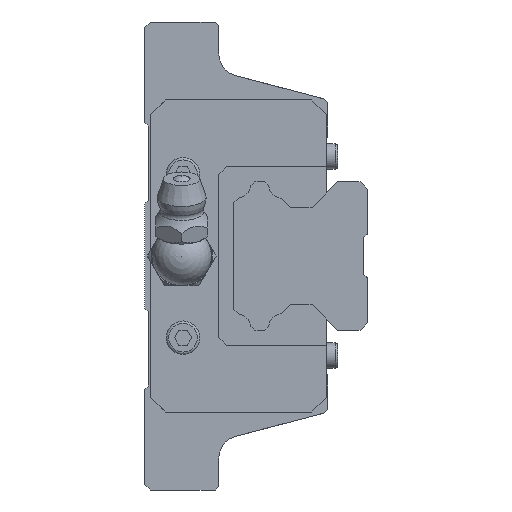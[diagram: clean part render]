
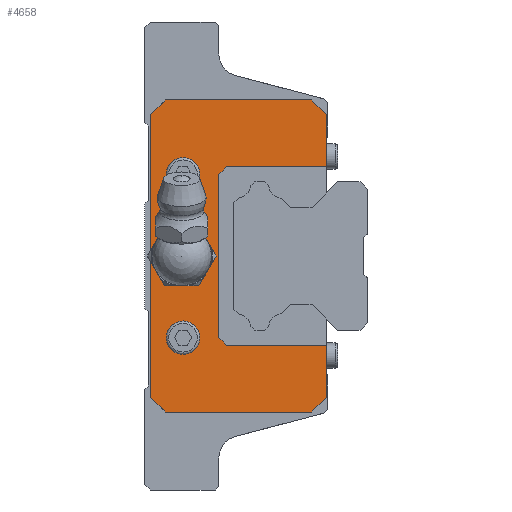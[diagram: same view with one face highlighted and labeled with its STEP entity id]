
A CAD part, left-side view. The second image highlights one B-rep face of the part: STEP entity #4658.
In plain terms, the highlighted planar face has unit normal (-1, 0, 0).
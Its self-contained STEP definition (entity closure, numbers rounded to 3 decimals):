
#206=CIRCLE('',#5045,3.);
#207=CIRCLE('',#5046,2.25);
#208=CIRCLE('',#5047,2.25);
#345=LINE('',#6781,#837);
#352=LINE('',#6795,#844);
#380=LINE('',#6853,#872);
#395=LINE('',#6884,#887);
#423=LINE('',#6937,#915);
#449=LINE('',#6997,#941);
#455=LINE('',#7014,#947);
#610=LINE('',#7441,#1102);
#611=LINE('',#7443,#1103);
#619=LINE('',#7471,#1111);
#620=LINE('',#7474,#1112);
#621=LINE('',#7475,#1113);
#622=LINE('',#7477,#1114);
#623=LINE('',#7479,#1115);
#837=VECTOR('',#5490,1000.);
#844=VECTOR('',#5501,1000.);
#872=VECTOR('',#5541,1000.);
#887=VECTOR('',#5560,1000.);
#915=VECTOR('',#5604,1000.);
#941=VECTOR('',#5646,1000.);
#947=VECTOR('',#5658,1000.);
#1102=VECTOR('',#6005,1000.);
#1103=VECTOR('',#6008,1000.);
#1111=VECTOR('',#6036,1000.);
#1112=VECTOR('',#6037,1000.);
#1113=VECTOR('',#6038,1000.);
#1114=VECTOR('',#6039,1000.);
#1115=VECTOR('',#6040,1000.);
#2039=ORIENTED_EDGE('',*,*,#3001,.T.);
#2040=ORIENTED_EDGE('',*,*,#3002,.F.);
#2041=ORIENTED_EDGE('',*,*,#3003,.F.);
#2042=ORIENTED_EDGE('',*,*,#3004,.T.);
#2043=ORIENTED_EDGE('',*,*,#3005,.T.);
#2044=ORIENTED_EDGE('',*,*,#2778,.F.);
#2045=ORIENTED_EDGE('',*,*,#2989,.T.);
#2046=ORIENTED_EDGE('',*,*,#2677,.F.);
#2047=ORIENTED_EDGE('',*,*,#2670,.F.);
#2048=ORIENTED_EDGE('',*,*,#2748,.F.);
#2049=ORIENTED_EDGE('',*,*,#2705,.F.);
#2050=ORIENTED_EDGE('',*,*,#2720,.F.);
#2051=ORIENTED_EDGE('',*,*,#2990,.T.);
#2052=ORIENTED_EDGE('',*,*,#2786,.F.);
#2053=ORIENTED_EDGE('',*,*,#3006,.T.);
#2054=ORIENTED_EDGE('',*,*,#3007,.T.);
#2055=ORIENTED_EDGE('',*,*,#3008,.T.);
#2670=EDGE_CURVE('',#3283,#3284,#345,.T.);
#2677=EDGE_CURVE('',#3284,#3289,#352,.T.);
#2705=EDGE_CURVE('',#3312,#3313,#380,.T.);
#2720=EDGE_CURVE('',#3326,#3312,#395,.T.);
#2748=EDGE_CURVE('',#3313,#3283,#423,.T.);
#2778=EDGE_CURVE('',#3369,#3370,#449,.T.);
#2786=EDGE_CURVE('',#3377,#3378,#455,.T.);
#2989=EDGE_CURVE('',#3369,#3289,#610,.T.);
#2990=EDGE_CURVE('',#3326,#3378,#611,.T.);
#3001=EDGE_CURVE('',#3529,#3529,#206,.T.);
#3002=EDGE_CURVE('',#3530,#3530,#207,.F.);
#3003=EDGE_CURVE('',#3531,#3531,#208,.F.);
#3004=EDGE_CURVE('',#3532,#3533,#619,.T.);
#3005=EDGE_CURVE('',#3533,#3370,#620,.T.);
#3006=EDGE_CURVE('',#3377,#3534,#621,.T.);
#3007=EDGE_CURVE('',#3534,#3535,#622,.T.);
#3008=EDGE_CURVE('',#3535,#3532,#623,.T.);
#3283=VERTEX_POINT('',#6780);
#3284=VERTEX_POINT('',#6782);
#3289=VERTEX_POINT('',#6796);
#3312=VERTEX_POINT('',#6852);
#3313=VERTEX_POINT('',#6854);
#3326=VERTEX_POINT('',#6883);
#3369=VERTEX_POINT('',#6996);
#3370=VERTEX_POINT('',#6998);
#3377=VERTEX_POINT('',#7013);
#3378=VERTEX_POINT('',#7015);
#3529=VERTEX_POINT('',#7466);
#3530=VERTEX_POINT('',#7468);
#3531=VERTEX_POINT('',#7470);
#3532=VERTEX_POINT('',#7472);
#3533=VERTEX_POINT('',#7473);
#3534=VERTEX_POINT('',#7476);
#3535=VERTEX_POINT('',#7478);
#3827=EDGE_LOOP('',(#2039));
#3828=EDGE_LOOP('',(#2040));
#3829=EDGE_LOOP('',(#2041));
#3830=EDGE_LOOP('',(#2042,#2043,#2044,#2045,#2046,#2047,#2048,#2049,#2050,
#2051,#2052,#2053,#2054,#2055));
#4160=FACE_BOUND('',#3827,.T.);
#4161=FACE_BOUND('',#3828,.T.);
#4162=FACE_BOUND('',#3829,.T.);
#4163=FACE_BOUND('',#3830,.T.);
#4436=PLANE('',#5044);
#4658=ADVANCED_FACE('',(#4160,#4161,#4162,#4163),#4436,.F.);
#5044=AXIS2_PLACEMENT_3D('',#7464,#6028,#6029);
#5045=AXIS2_PLACEMENT_3D('',#7465,#6030,#6031);
#5046=AXIS2_PLACEMENT_3D('',#7467,#6032,#6033);
#5047=AXIS2_PLACEMENT_3D('',#7469,#6034,#6035);
#5490=DIRECTION('',(0.,-0.707,0.707));
#5501=DIRECTION('',(0.,-1.,0.));
#5541=DIRECTION('',(0.,0.707,0.707));
#5560=DIRECTION('',(0.,1.,0.));
#5604=DIRECTION('',(0.,0.,1.));
#5646=DIRECTION('',(0.,0.,-1.));
#5658=DIRECTION('',(0.,0.,-1.));
#6005=DIRECTION('',(0.,0.707,0.707));
#6008=DIRECTION('',(0.,-0.707,0.707));
#6028=DIRECTION('',(1.,0.,0.));
#6029=DIRECTION('',(0.,0.,-1.));
#6030=DIRECTION('',(1.,0.,0.));
#6031=DIRECTION('',(0.,0.,-1.));
#6032=DIRECTION('',(1.,0.,0.));
#6033=DIRECTION('',(0.,0.,-1.));
#6034=DIRECTION('',(1.,0.,0.));
#6035=DIRECTION('',(0.,0.,-1.));
#6036=DIRECTION('',(0.,-0.707,0.707));
#6037=DIRECTION('',(0.,-1.,0.));
#6038=DIRECTION('',(0.,1.,0.));
#6039=DIRECTION('',(0.,0.707,0.707));
#6040=DIRECTION('',(0.,0.,1.));
#6780=CARTESIAN_POINT('',(-44.,25.2,19.));
#6781=CARTESIAN_POINT('',(-44.,25.2,19.));
#6782=CARTESIAN_POINT('',(-44.,23.2,21.));
#6795=CARTESIAN_POINT('',(-44.,26.,21.));
#6796=CARTESIAN_POINT('',(-44.,3.517,21.));
#6852=CARTESIAN_POINT('',(-44.,23.2,-21.));
#6853=CARTESIAN_POINT('',(-44.,23.2,-21.));
#6854=CARTESIAN_POINT('',(-44.,25.2,-19.));
#6883=CARTESIAN_POINT('',(-44.,3.517,-21.));
#6884=CARTESIAN_POINT('',(-44.,0.,-21.));
#6937=CARTESIAN_POINT('',(-44.,25.2,-19.));
#6996=CARTESIAN_POINT('',(-44.,1.517,19.));
#6997=CARTESIAN_POINT('',(-44.,1.517,16.));
#6998=CARTESIAN_POINT('',(-44.,1.517,12.));
#7013=CARTESIAN_POINT('',(-44.,1.517,-12.));
#7014=CARTESIAN_POINT('',(-44.,1.517,16.));
#7015=CARTESIAN_POINT('',(-44.,1.517,-19.));
#7441=CARTESIAN_POINT('',(-44.,3.517,21.));
#7443=CARTESIAN_POINT('',(-44.,1.517,-19.));
#7464=CARTESIAN_POINT('',(-44.,0.,0.));
#7465=CARTESIAN_POINT('',(-44.,21.,0.));
#7466=CARTESIAN_POINT('',(-44.,21.,-3.));
#7467=CARTESIAN_POINT('',(-44.,20.817,11.));
#7468=CARTESIAN_POINT('',(-44.,20.817,8.75));
#7469=CARTESIAN_POINT('',(-44.,20.817,-11.));
#7470=CARTESIAN_POINT('',(-44.,20.817,-13.25));
#7471=CARTESIAN_POINT('',(-44.,16.,11.));
#7472=CARTESIAN_POINT('',(-44.,16.,11.));
#7473=CARTESIAN_POINT('',(-44.,15.,12.));
#7474=CARTESIAN_POINT('',(-44.,15.,12.));
#7475=CARTESIAN_POINT('',(-44.,1.517,-12.));
#7476=CARTESIAN_POINT('',(-44.,15.,-12.));
#7477=CARTESIAN_POINT('',(-44.,15.,-12.));
#7478=CARTESIAN_POINT('',(-44.,16.,-11.));
#7479=CARTESIAN_POINT('',(-44.,16.,-11.));
